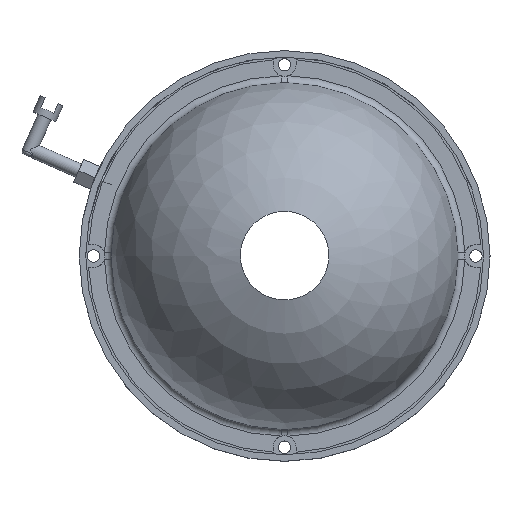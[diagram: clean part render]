
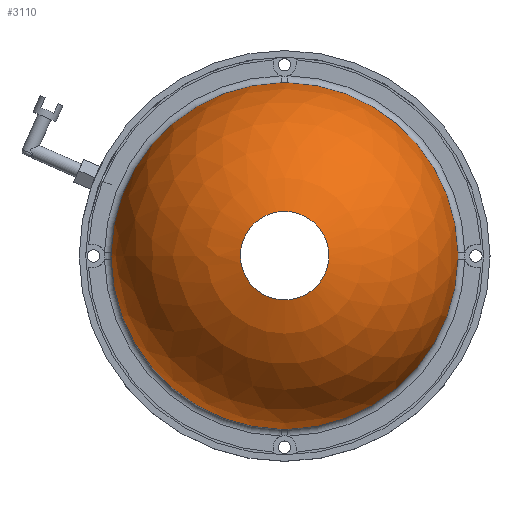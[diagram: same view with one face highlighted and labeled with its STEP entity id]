
A CAD part, top view. The second image highlights one B-rep face of the part: STEP entity #3110.
In plain terms, the highlighted spherical face has radius 49 mm.
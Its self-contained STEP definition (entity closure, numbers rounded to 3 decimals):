
#55 = CARTESIAN_POINT ( 'NONE',  ( 0.606, -48.901, 3.075 ) ) ;
#71 = CARTESIAN_POINT ( 'NONE',  ( 48.901, 0.606, 3.075 ) ) ;
#105 = DIRECTION ( 'NONE',  ( 0., 0., -1. ) ) ;
#183 = ORIENTED_EDGE ( 'NONE', *, *, #2258, .T. ) ;
#210 = EDGE_CURVE ( 'NONE', #1471, #3046, #1302, .T. ) ;
#235 = DIRECTION ( 'NONE',  ( -1., 0., 0. ) ) ;
#242 = VERTEX_POINT ( 'NONE', #2825 ) ;
#244 = CIRCLE ( 'NONE', #1075, 12.5 ) ;
#303 = AXIS2_PLACEMENT_3D ( 'NONE', #2871, #589, #2304 ) ;
#335 = CARTESIAN_POINT ( 'NONE',  ( -0.909, -48.895, 3.075 ) ) ;
#352 = DIRECTION ( 'NONE',  ( -1., 0., 0. ) ) ;
#371 = CARTESIAN_POINT ( 'NONE',  ( 0.303, -48.904, 3.069 ) ) ;
#373 = ORIENTED_EDGE ( 'NONE', *, *, #683, .T. ) ;
#386 = CARTESIAN_POINT ( 'NONE',  ( 48.895, 0.909, 3.075 ) ) ;
#440 = EDGE_CURVE ( 'NONE', #1394, #3744, #2012, .T. ) ;
#550 = CARTESIAN_POINT ( 'NONE',  ( -0.909, -48.895, 3.075 ) ) ;
#589 = DIRECTION ( 'NONE',  ( 0., 0., 1. ) ) ;
#638 = DIRECTION ( 'NONE',  ( 0., 0., 1. ) ) ;
#683 = EDGE_CURVE ( 'NONE', #2494, #3425, #1654, .T. ) ;
#691 = EDGE_CURVE ( 'NONE', #1945, #242, #3684, .T. ) ;
#693 = VERTEX_POINT ( 'NONE', #3100 ) ;
#724 = EDGE_CURVE ( 'NONE', #3744, #1394, #244, .T. ) ;
#734 = CARTESIAN_POINT ( 'NONE',  ( 48.895, 0.909, 3.075 ) ) ;
#758 = B_SPLINE_CURVE_WITH_KNOTS ( 'NONE', 3,
 ( #335, #2956, #1476, #371, #55, #1136 ),
 .UNSPECIFIED., .F., .F.,
 ( 4, 2, 4 ),
 ( 0., 0.001, 0.002 ),
 .UNSPECIFIED. ) ;
#811 = CARTESIAN_POINT ( 'NONE',  ( 0., 0., 3.075 ) ) ;
#861 = EDGE_CURVE ( 'NONE', #693, #1471, #2464, .T. ) ;
#872 = CARTESIAN_POINT ( 'NONE',  ( -48.895, -0.909, 3.075 ) ) ;
#899 = CARTESIAN_POINT ( 'NONE',  ( 0., 0., 0. ) ) ;
#912 = EDGE_CURVE ( 'NONE', #3425, #1945, #2237, .T. ) ;
#1075 = AXIS2_PLACEMENT_3D ( 'NONE', #3065, #2855, #352 ) ;
#1115 = ORIENTED_EDGE ( 'NONE', *, *, #861, .T. ) ;
#1136 = CARTESIAN_POINT ( 'NONE',  ( 0.909, -48.895, 3.075 ) ) ;
#1160 = CARTESIAN_POINT ( 'NONE',  ( -48.904, 0.303, 3.069 ) ) ;
#1183 = ORIENTED_EDGE ( 'NONE', *, *, #724, .T. ) ;
#1302 = B_SPLINE_CURVE_WITH_KNOTS ( 'NONE', 3,
 ( #3172, #1391, #1160, #2308, #3470, #872 ),
 .UNSPECIFIED., .F., .F.,
 ( 4, 2, 4 ),
 ( 0., 0.001, 0.002 ),
 .UNSPECIFIED. ) ;
#1327 = DIRECTION ( 'NONE',  ( 0., 0., 1. ) ) ;
#1391 = CARTESIAN_POINT ( 'NONE',  ( -48.901, 0.606, 3.075 ) ) ;
#1393 = AXIS2_PLACEMENT_3D ( 'NONE', #1966, #3390, #1949 ) ;
#1394 = VERTEX_POINT ( 'NONE', #1515 ) ;
#1416 = AXIS2_PLACEMENT_3D ( 'NONE', #899, #638, #2015 ) ;
#1444 = B_SPLINE_CURVE_WITH_KNOTS ( 'NONE', 3,
 ( #2623, #2606, #1780, #3210, #2933, #2894 ),
 .UNSPECIFIED., .F., .F.,
 ( 4, 2, 4 ),
 ( 0., 0.001, 0.002 ),
 .UNSPECIFIED. ) ;
#1471 = VERTEX_POINT ( 'NONE', #2261 ) ;
#1476 = CARTESIAN_POINT ( 'NONE',  ( -0.303, -48.904, 3.069 ) ) ;
#1515 = CARTESIAN_POINT ( 'NONE',  ( 12.5, 0., 47.379 ) ) ;
#1525 = ORIENTED_EDGE ( 'NONE', *, *, #691, .T. ) ;
#1532 = ORIENTED_EDGE ( 'NONE', *, *, #440, .T. ) ;
#1654 = CIRCLE ( 'NONE', #3515, 48.903 ) ;
#1671 = CARTESIAN_POINT ( 'NONE',  ( 48.895, -0.909, 3.075 ) ) ;
#1780 = CARTESIAN_POINT ( 'NONE',  ( 0.303, 48.904, 3.069 ) ) ;
#1827 = AXIS2_PLACEMENT_3D ( 'NONE', #2683, #105, #2321 ) ;
#1933 = VERTEX_POINT ( 'NONE', #550 ) ;
#1945 = VERTEX_POINT ( 'NONE', #734 ) ;
#1946 = CARTESIAN_POINT ( 'NONE',  ( 0., 0., 3.075 ) ) ;
#1949 = DIRECTION ( 'NONE',  ( -1., 0., 0. ) ) ;
#1966 = CARTESIAN_POINT ( 'NONE',  ( 0., 0., 3.075 ) ) ;
#2012 = CIRCLE ( 'NONE', #1827, 12.5 ) ;
#2015 = DIRECTION ( 'NONE',  ( -1., 0., 0. ) ) ;
#2052 = EDGE_CURVE ( 'NONE', #3046, #1933, #3681, .T. ) ;
#2075 = FACE_OUTER_BOUND ( 'NONE', #2617, .T. ) ;
#2207 = EDGE_CURVE ( 'NONE', #242, #693, #1444, .T. ) ;
#2237 = B_SPLINE_CURVE_WITH_KNOTS ( 'NONE', 3,
 ( #3524, #2356, #3228, #2951, #71, #386 ),
 .UNSPECIFIED., .F., .F.,
 ( 4, 2, 4 ),
 ( 0., 0.001, 0.002 ),
 .UNSPECIFIED. ) ;
#2258 = EDGE_CURVE ( 'NONE', #1933, #2494, #758, .T. ) ;
#2261 = CARTESIAN_POINT ( 'NONE',  ( -48.895, 0.909, 3.075 ) ) ;
#2304 = DIRECTION ( 'NONE',  ( -1., 0., 0. ) ) ;
#2308 = CARTESIAN_POINT ( 'NONE',  ( -48.904, -0.303, 3.069 ) ) ;
#2321 = DIRECTION ( 'NONE',  ( -1., 0., 0. ) ) ;
#2356 = CARTESIAN_POINT ( 'NONE',  ( 48.901, -0.606, 3.075 ) ) ;
#2464 = CIRCLE ( 'NONE', #303, 48.903 ) ;
#2494 = VERTEX_POINT ( 'NONE', #2758 ) ;
#2499 = CARTESIAN_POINT ( 'NONE',  ( -48.895, -0.909, 3.075 ) ) ;
#2606 = CARTESIAN_POINT ( 'NONE',  ( 0.606, 48.901, 3.075 ) ) ;
#2614 = SPHERICAL_SURFACE ( 'NONE', #1416, 49. ) ;
#2617 = EDGE_LOOP ( 'NONE', ( #3609, #3521, #183, #373, #3685, #1525, #3734, #1115 ) ) ;
#2623 = CARTESIAN_POINT ( 'NONE',  ( 0.909, 48.895, 3.075 ) ) ;
#2628 = EDGE_LOOP ( 'NONE', ( #1183, #1532 ) ) ;
#2646 = AXIS2_PLACEMENT_3D ( 'NONE', #1946, #1327, #2800 ) ;
#2676 = CARTESIAN_POINT ( 'NONE',  ( -12.5, 0., 47.379 ) ) ;
#2683 = CARTESIAN_POINT ( 'NONE',  ( 0., 0., 47.379 ) ) ;
#2758 = CARTESIAN_POINT ( 'NONE',  ( 0.909, -48.895, 3.075 ) ) ;
#2800 = DIRECTION ( 'NONE',  ( -1., 0., 0. ) ) ;
#2825 = CARTESIAN_POINT ( 'NONE',  ( 0.909, 48.895, 3.075 ) ) ;
#2855 = DIRECTION ( 'NONE',  ( 0., 0., -1. ) ) ;
#2871 = CARTESIAN_POINT ( 'NONE',  ( 0., 0., 3.075 ) ) ;
#2894 = CARTESIAN_POINT ( 'NONE',  ( -0.909, 48.895, 3.075 ) ) ;
#2933 = CARTESIAN_POINT ( 'NONE',  ( -0.606, 48.901, 3.075 ) ) ;
#2951 = CARTESIAN_POINT ( 'NONE',  ( 48.904, 0.303, 3.069 ) ) ;
#2956 = CARTESIAN_POINT ( 'NONE',  ( -0.606, -48.901, 3.075 ) ) ;
#3046 = VERTEX_POINT ( 'NONE', #2499 ) ;
#3065 = CARTESIAN_POINT ( 'NONE',  ( 0., 0., 47.379 ) ) ;
#3082 = DIRECTION ( 'NONE',  ( 0., 0., 1. ) ) ;
#3100 = CARTESIAN_POINT ( 'NONE',  ( -0.909, 48.895, 3.075 ) ) ;
#3110 = ADVANCED_FACE ( 'NONE', ( #2075, #3457 ), #2614, .T. ) ;
#3172 = CARTESIAN_POINT ( 'NONE',  ( -48.895, 0.909, 3.075 ) ) ;
#3210 = CARTESIAN_POINT ( 'NONE',  ( -0.303, 48.904, 3.069 ) ) ;
#3228 = CARTESIAN_POINT ( 'NONE',  ( 48.904, -0.303, 3.069 ) ) ;
#3390 = DIRECTION ( 'NONE',  ( 0., 0., 1. ) ) ;
#3425 = VERTEX_POINT ( 'NONE', #1671 ) ;
#3457 = FACE_BOUND ( 'NONE', #2628, .T. ) ;
#3470 = CARTESIAN_POINT ( 'NONE',  ( -48.901, -0.606, 3.075 ) ) ;
#3515 = AXIS2_PLACEMENT_3D ( 'NONE', #811, #3082, #235 ) ;
#3521 = ORIENTED_EDGE ( 'NONE', *, *, #2052, .T. ) ;
#3524 = CARTESIAN_POINT ( 'NONE',  ( 48.895, -0.909, 3.075 ) ) ;
#3609 = ORIENTED_EDGE ( 'NONE', *, *, #210, .T. ) ;
#3681 = CIRCLE ( 'NONE', #1393, 48.903 ) ;
#3684 = CIRCLE ( 'NONE', #2646, 48.903 ) ;
#3685 = ORIENTED_EDGE ( 'NONE', *, *, #912, .T. ) ;
#3734 = ORIENTED_EDGE ( 'NONE', *, *, #2207, .T. ) ;
#3744 = VERTEX_POINT ( 'NONE', #2676 ) ;
